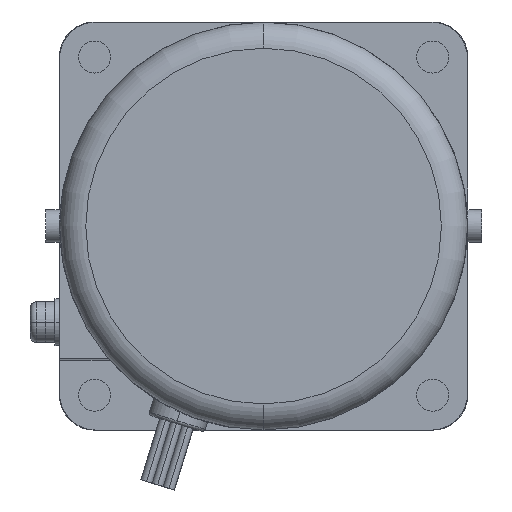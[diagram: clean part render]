
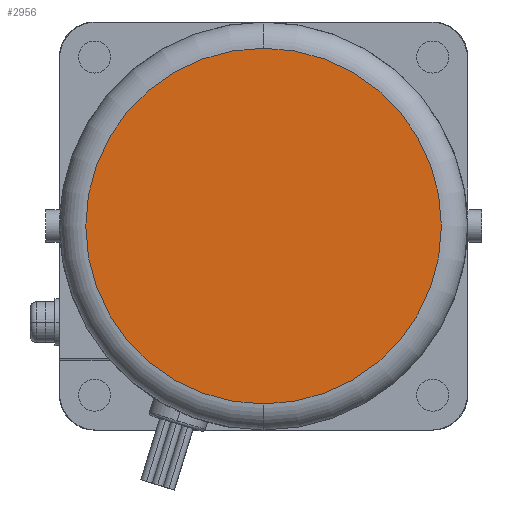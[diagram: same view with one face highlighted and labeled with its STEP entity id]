
A CAD part, left-side view. The second image highlights one B-rep face of the part: STEP entity #2956.
In plain terms, the highlighted planar face has unit normal (-1, 0, 0).
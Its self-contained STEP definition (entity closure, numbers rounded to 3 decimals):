
#2936=CARTESIAN_POINT('POINT601591',(-152.,0.,
   15.5));
#2937=VERTEX_POINT('VERTEX601591',#2936);
#2938=CARTESIAN_POINT('POINT601592',(-152.,0.,
   -45.5));
#2939=VERTEX_POINT('VERTEX601592',#2938);
#2940=CARTESIAN_POINT('POS989449',(-152.,0.,-15.));
#2941=DIRECTION('DIR1475180',(-1.,0.,0.));
#2942=DIRECTION('DIR1475181',(0.,0.,-1.));
#2943=AXIS2_PLACEMENT_3D('AXIS485732',#2940,#2941,#2942);
#2944=CIRCLE('ELLIPSE216673',#2943,30.5);
#2945=EDGE_CURVE('EDGE925701',#2937,#2939,#2944,.T.);
#2946=ORIENTED_EDGE('COEDGE1852019',*,*,#2945,.T.);
#2947=EDGE_CURVE('EDGE925702',#2939,#2937,#2944,.T.);
#2948=ORIENTED_EDGE('COEDGE1852020',*,*,#2947,.T.);
#2949=EDGE_LOOP('NONE',(#2946,#2948));
#2950=FACE_BOUND('LOOP1',#2949,.T.);
#2951=CARTESIAN_POINT('POS989450',(-152.,0.,-32.495));
#2952=DIRECTION('DIR1475182',(-1.,0.,0.));
#2953=DIRECTION('DIR1475183',(0.,1.,0.));
#2954=AXIS2_PLACEMENT_3D('AXIS485733',#2951,#2952,#2953);
#2955=PLANE('PLANE172250',#2954);
#2956=ADVANCED_FACE('FACE376150',(#2950),#2955,.T.);
